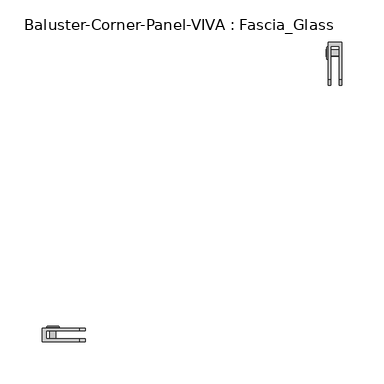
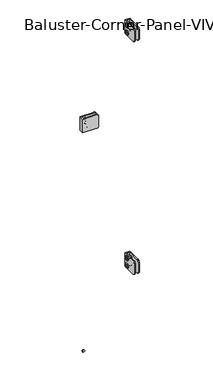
"""IFC4 building model written with IfcOpenShell, lengths in millimetres: railing geometry, Baluster-Corner-Panel-VIVA : Fascia_Glass."""

from ifc_helpers import new_model, si_unit, point, frame, origin, place, context, project, spatial, polyline, circle_curve, ellipse_curve, trimmed, outline, extrude, source, transform, mapped, element, save
from ifc_brep_helpers import plane_surface, cylinder_surface, revolved_surface, advanced_brep


def baluster_corner_panel_viva_fascia_glass_309fbe8c(model_context):
    return source(origin(), model_context, "Body", "SolidModel", [
        extrude(outline(polyline([(305.5784645, 917.178125), (303.5315003, 913.6326791), (299.437572, 913.6326791), (297.3906079, 917.178125), (299.437572, 920.7235709), (303.5315003, 920.7235709), (305.5784645, 917.178125)])), frame((21.7024185, 0.0, 0.0), z_axis=(1.0, 0.0, 0.0), x_axis=(0.0, 1.0, 0.0)), (0.0, 0.0, 1.0), 1.4969696),
        advanced_brep(
        [(36.7665, 305.0299821, 917.178125), (36.7665, 297.9390903, 917.178125), (24.0665, 297.9390903, 917.178125), (24.0665, 305.0299821, 917.178125), (24.0665, 294.0767471, 917.178125), (24.0665, 308.8923253, 917.178125), (23.199388, 303.1406116, 917.178125), (23.199388, 299.8284608, 917.178125), (36.7665, 299.8284608, 917.178125), (36.7665, 303.1406116, 917.178125), (23.2316551, 308.8923253, 917.178125), (23.2316551, 294.0767471, 917.178125), (21.9503831, 295.3580191, 917.178125), (21.9503831, 307.6110532, 917.178125), (21.9503831, 297.1859406, 917.178125), (21.9503831, 305.7831317, 917.178125), (23.199388, 297.1859406, 917.178125), (23.199388, 305.7831317, 917.178125)],
        [
            (0, 1, circle_curve(frame((36.7665, 301.4845362, 917.178125), z_axis=(-1.0, 0.0, 0.0), x_axis=(0.0, -1.0, 0.0)), 3.5454459)),
            (1, 2),
            (2, 3, circle_curve(frame((24.0665, 301.4845362, 917.178125), z_axis=(1.0, 0.0, 0.0), x_axis=(0.0, -1.0, 0.0)), 3.5454459)),
            (3, 0),
            (1, 0, circle_curve(frame((36.7665, 301.4845362, 917.178125), z_axis=(-1.0, 0.0, 0.0), x_axis=(0.0, -1.0, 0.0)), 3.5454459)),
            (3, 2, circle_curve(frame((24.0665, 301.4845362, 917.178125), z_axis=(1.0, 0.0, 0.0), x_axis=(0.0, -1.0, 0.0)), 3.5454459)),
            (2, 4),
            (4, 5, circle_curve(frame((24.0665, 301.4845362, 917.178125), z_axis=(1.0, 0.0, 0.0), x_axis=(0.0, -1.0, 0.0)), 7.4077891)),
            (5, 3),
            (5, 4, circle_curve(frame((24.0665, 301.4845362, 917.178125), z_axis=(1.0, 0.0, 0.0), x_axis=(0.0, -1.0, 0.0)), 7.4077891)),
            (6, 7, circle_curve(frame((23.199388, 301.4845362, 917.178125), z_axis=(-1.0, 0.0, 0.0), x_axis=(0.0, -1.0, 0.0)), 1.6560754)),
            (7, 8),
            (8, 9, circle_curve(frame((36.7665, 301.4845362, 917.178125), z_axis=(1.0, 0.0, 0.0), x_axis=(0.0, -1.0, 0.0)), 1.6560754)),
            (9, 6),
            (7, 6, circle_curve(frame((23.199388, 301.4845362, 917.178125), z_axis=(-1.0, 0.0, 0.0), x_axis=(0.0, -1.0, 0.0)), 1.6560754)),
            (9, 8, circle_curve(frame((36.7665, 301.4845362, 917.178125), z_axis=(1.0, 0.0, 0.0), x_axis=(0.0, -1.0, 0.0)), 1.6560754)),
            (10, 11, circle_curve(frame((23.2316551, 301.4845362, 917.178125), z_axis=(-1.0, 0.0, 0.0), x_axis=(0.0, -1.0, 0.0)), 7.4077891)),
            (11, 12, circle_curve(frame((23.2316551, 295.3580191, 917.178125), z_axis=(0.0, 0.0, -1.0), x_axis=(0.0, -1.0, 0.0)), 1.281272)),
            (12, 13, circle_curve(frame((21.9503831, 301.4845362, 917.178125), z_axis=(1.0, 0.0, 0.0), x_axis=(0.0, -1.0, 0.0)), 6.1265171)),
            (13, 10, circle_curve(frame((23.2316551, 307.6110532, 917.178125), z_axis=(0.0, 0.0, -1.0), x_axis=(0.0, 1.0, 0.0)), 1.281272)),
            (11, 10, circle_curve(frame((23.2316551, 301.4845362, 917.178125), z_axis=(-1.0, 0.0, 0.0), x_axis=(0.0, -1.0, 0.0)), 7.4077891)),
            (13, 12, circle_curve(frame((21.9503831, 301.4845362, 917.178125), z_axis=(1.0, 0.0, 0.0), x_axis=(0.0, -1.0, 0.0)), 6.1265171)),
            (12, 14),
            (14, 15, circle_curve(frame((21.9503831, 301.4845362, 917.178125), z_axis=(1.0, 0.0, 0.0), x_axis=(0.0, -1.0, 0.0)), 4.2985955)),
            (15, 13),
            (15, 14, circle_curve(frame((21.9503831, 301.4845362, 917.178125), z_axis=(1.0, 0.0, 0.0), x_axis=(0.0, -1.0, 0.0)), 4.2985955)),
            (4, 11),
            (10, 5),
            (8, 1),
            (0, 9),
            (14, 16),
            (16, 17, circle_curve(frame((23.199388, 301.4845362, 917.178125), z_axis=(1.0, 0.0, 0.0), x_axis=(0.0, -1.0, 0.0)), 4.2985955)),
            (17, 15),
            (17, 16, circle_curve(frame((23.199388, 301.4845362, 917.178125), z_axis=(1.0, 0.0, 0.0), x_axis=(0.0, -1.0, 0.0)), 4.2985955)),
            (16, 7),
            (6, 17),
        ],
        [
            cylinder_surface(frame((27.5632331, 301.4845362, 917.178125), z_axis=(1.0, 0.0, 0.0), x_axis=(0.0, -1.0, 0.0)), 3.5454459),
            plane_surface(frame((24.0665, 301.4845362, 917.178125), z_axis=(1.0, 0.0, 0.0), x_axis=(0.0, -1.0, 0.0))),
            revolved_surface(polyline([(36.7665, 299.82846079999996, 917.178125), (23.199388, 299.82846079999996, 917.178125)]), (27.5632331, 301.4845362, 917.178125), (1.0, 0.0, 0.0)),
            revolved_surface(trimmed(ellipse_curve(frame((23.2316551, 295.3580191, 917.178125), z_axis=(0.0, 0.0, 1.0), x_axis=(0.0, -1.0, 0.0)), 1.281272, 1.281272), [point((21.9503831, 295.3580191, 917.178125))], [point((23.2316551, 294.0767471, 917.178125))], True, "CARTESIAN"), (27.5632331, 301.4845362, 917.178125), (1.0, 0.0, 0.0)),
            plane_surface(frame((21.9503831, 301.4845362, 917.178125), z_axis=(-1.0, 0.0, 0.0), x_axis=(0.0, -1.0, 0.0))),
            cylinder_surface(frame((27.5632331, 301.4845362, 917.178125), z_axis=(1.0, 0.0, 0.0), x_axis=(0.0, -1.0, 0.0)), 7.4077891),
            plane_surface(frame((36.7665, 301.4845362, 917.178125), z_axis=(1.0, 0.0, 0.0), x_axis=(0.0, -1.0, 0.0))),
            revolved_surface(polyline([(23.199388, 297.1859407, 917.178125), (21.9503831, 297.1859407, 917.178125)]), (27.5632331, 301.4845362, 917.178125), (1.0, 0.0, 0.0)),
            plane_surface(frame((23.199388, 301.4845362, 917.178125), z_axis=(-1.0, 0.0, 0.0), x_axis=(0.0, -1.0, 0.0))),
        ],
        [
            (0, [[1, 2, 3, 4]]),
            (0, [[5, -4, 6, -2]]),
            (1, [[-3, 7, 8, 9]]),
            (1, [[-6, -9, 10, -7]]),
            (2, [[11, 12, 13, 14]]),
            (2, [[15, -14, 16, -12]]),
            (3, [[17, 18, 19, 20]]),
            (3, [[21, -20, 22, -18]]),
            (4, [[-19, 23, 24, 25]]),
            (4, [[-22, -25, 26, -23]]),
            (5, [[-8, 27, -17, 28]]),
            (5, [[-10, -28, -21, -27]]),
            (6, [[-13, 29, -1, 30]]),
            (6, [[-16, -30, -5, -29]]),
            (7, [[-24, 31, 32, 33]]),
            (7, [[-26, -33, 34, -31]]),
            (8, [[-32, 35, -11, 36]]),
            (8, [[-34, -36, -15, -35]]),
        ],
    ),
        advanced_brep(
        [(36.7665, 305.0299821, 892.571875), (36.7665, 297.9390903, 892.571875), (24.0665, 297.9390903, 892.571875), (24.0665, 305.0299821, 892.571875), (24.0665, 294.0767471, 892.571875), (24.0665, 308.8923253, 892.571875), (23.199388, 303.1406116, 892.571875), (23.199388, 299.8284608, 892.571875), (36.7665, 299.8284608, 892.571875), (36.7665, 303.1406116, 892.571875), (23.2316551, 308.8923253, 892.571875), (23.2316551, 294.0767471, 892.571875), (21.9503831, 295.3580191, 892.571875), (21.9503831, 307.6110532, 892.571875), (21.9503831, 297.1859406, 892.571875), (21.9503831, 305.7831317, 892.571875), (23.199388, 297.1859406, 892.571875), (23.199388, 305.7831317, 892.571875)],
        [
            (0, 1, circle_curve(frame((36.7665, 301.4845362, 892.571875), z_axis=(-1.0, 0.0, 0.0), x_axis=(0.0, -1.0, 0.0)), 3.5454459)),
            (1, 2),
            (2, 3, circle_curve(frame((24.0665, 301.4845362, 892.571875), z_axis=(1.0, 0.0, 0.0), x_axis=(0.0, -1.0, 0.0)), 3.5454459)),
            (3, 0),
            (1, 0, circle_curve(frame((36.7665, 301.4845362, 892.571875), z_axis=(-1.0, 0.0, 0.0), x_axis=(0.0, -1.0, 0.0)), 3.5454459)),
            (3, 2, circle_curve(frame((24.0665, 301.4845362, 892.571875), z_axis=(1.0, 0.0, 0.0), x_axis=(0.0, -1.0, 0.0)), 3.5454459)),
            (2, 4),
            (4, 5, circle_curve(frame((24.0665, 301.4845362, 892.571875), z_axis=(1.0, 0.0, 0.0), x_axis=(0.0, -1.0, 0.0)), 7.4077891)),
            (5, 3),
            (5, 4, circle_curve(frame((24.0665, 301.4845362, 892.571875), z_axis=(1.0, 0.0, 0.0), x_axis=(0.0, -1.0, 0.0)), 7.4077891)),
            (6, 7, circle_curve(frame((23.199388, 301.4845362, 892.571875), z_axis=(-1.0, 0.0, 0.0), x_axis=(0.0, -1.0, 0.0)), 1.6560754)),
            (7, 8),
            (8, 9, circle_curve(frame((36.7665, 301.4845362, 892.571875), z_axis=(1.0, 0.0, 0.0), x_axis=(0.0, -1.0, 0.0)), 1.6560754)),
            (9, 6),
            (7, 6, circle_curve(frame((23.199388, 301.4845362, 892.571875), z_axis=(-1.0, 0.0, 0.0), x_axis=(0.0, -1.0, 0.0)), 1.6560754)),
            (9, 8, circle_curve(frame((36.7665, 301.4845362, 892.571875), z_axis=(1.0, 0.0, 0.0), x_axis=(0.0, -1.0, 0.0)), 1.6560754)),
            (10, 11, circle_curve(frame((23.2316551, 301.4845362, 892.571875), z_axis=(-1.0, 0.0, 0.0), x_axis=(0.0, -1.0, 0.0)), 7.4077891)),
            (11, 12, circle_curve(frame((23.2316551, 295.3580191, 892.571875), z_axis=(0.0, 0.0, -1.0), x_axis=(0.0, -1.0, 0.0)), 1.281272)),
            (12, 13, circle_curve(frame((21.9503831, 301.4845362, 892.571875), z_axis=(1.0, 0.0, 0.0), x_axis=(0.0, -1.0, 0.0)), 6.1265171)),
            (13, 10, circle_curve(frame((23.2316551, 307.6110532, 892.571875), z_axis=(0.0, 0.0, -1.0), x_axis=(0.0, 1.0, 0.0)), 1.281272)),
            (11, 10, circle_curve(frame((23.2316551, 301.4845362, 892.571875), z_axis=(-1.0, 0.0, 0.0), x_axis=(0.0, -1.0, 0.0)), 7.4077891)),
            (13, 12, circle_curve(frame((21.9503831, 301.4845362, 892.571875), z_axis=(1.0, 0.0, 0.0), x_axis=(0.0, -1.0, 0.0)), 6.1265171)),
            (12, 14),
            (14, 15, circle_curve(frame((21.9503831, 301.4845362, 892.571875), z_axis=(1.0, 0.0, 0.0), x_axis=(0.0, -1.0, 0.0)), 4.2985955)),
            (15, 13),
            (15, 14, circle_curve(frame((21.9503831, 301.4845362, 892.571875), z_axis=(1.0, 0.0, 0.0), x_axis=(0.0, -1.0, 0.0)), 4.2985955)),
            (8, 1),
            (0, 9),
            (4, 11),
            (10, 5),
            (14, 16),
            (16, 17, circle_curve(frame((23.199388, 301.4845362, 892.571875), z_axis=(1.0, 0.0, 0.0), x_axis=(0.0, -1.0, 0.0)), 4.2985955)),
            (17, 15),
            (17, 16, circle_curve(frame((23.199388, 301.4845362, 892.571875), z_axis=(1.0, 0.0, 0.0), x_axis=(0.0, -1.0, 0.0)), 4.2985955)),
            (16, 7),
            (6, 17),
        ],
        [
            cylinder_surface(frame((27.5632331, 301.4845362, 892.571875), z_axis=(1.0, 0.0, 0.0), x_axis=(0.0, -1.0, 0.0)), 3.5454459),
            plane_surface(frame((24.0665, 301.4845362, 892.571875), z_axis=(1.0, 0.0, 0.0), x_axis=(0.0, -1.0, 0.0))),
            revolved_surface(polyline([(36.7665, 299.82846079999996, 892.571875), (23.199388, 299.82846079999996, 892.571875)]), (27.5632331, 301.4845362, 892.571875), (1.0, 0.0, 0.0)),
            revolved_surface(trimmed(ellipse_curve(frame((23.2316551, 295.3580191, 892.571875), z_axis=(0.0, 0.0, 1.0), x_axis=(0.0, -1.0, 0.0)), 1.281272, 1.281272), [point((21.9503831, 295.3580191, 892.571875))], [point((23.2316551, 294.0767471, 892.571875))], True, "CARTESIAN"), (27.5632331, 301.4845362, 892.571875), (1.0, 0.0, 0.0)),
            plane_surface(frame((21.9503831, 301.4845362, 892.571875), z_axis=(-1.0, 0.0, 0.0), x_axis=(0.0, -1.0, 0.0))),
            plane_surface(frame((36.7665, 301.4845362, 892.571875), z_axis=(1.0, 0.0, 0.0), x_axis=(0.0, -1.0, 0.0))),
            cylinder_surface(frame((27.5632331, 301.4845362, 892.571875), z_axis=(1.0, 0.0, 0.0), x_axis=(0.0, -1.0, 0.0)), 7.4077891),
            revolved_surface(polyline([(23.199388, 297.1859407, 892.571875), (21.9503831, 297.1859407, 892.571875)]), (27.5632331, 301.4845362, 892.571875), (1.0, 0.0, 0.0)),
            plane_surface(frame((23.199388, 301.4845362, 892.571875), z_axis=(-1.0, 0.0, 0.0), x_axis=(0.0, -1.0, 0.0))),
        ],
        [
            (0, [[1, 2, 3, 4]]),
            (0, [[5, -4, 6, -2]]),
            (1, [[-3, 7, 8, 9]]),
            (1, [[-6, -9, 10, -7]]),
            (2, [[11, 12, 13, 14]]),
            (2, [[15, -14, 16, -12]]),
            (3, [[17, 18, 19, 20]]),
            (3, [[21, -20, 22, -18]]),
            (4, [[-19, 23, 24, 25]]),
            (4, [[-22, -25, 26, -23]]),
            (5, [[-13, 27, -1, 28]]),
            (5, [[-16, -28, -5, -27]]),
            (6, [[-8, 29, -17, 30]]),
            (6, [[-10, -30, -21, -29]]),
            (7, [[-24, 31, 32, 33]]),
            (7, [[-26, -33, 34, -31]]),
            (8, [[-32, 35, -11, 36]]),
            (8, [[-34, -36, -15, -35]]),
        ],
    ),
        extrude(outline(polyline([(305.5784645, 892.571875), (303.5315003, 889.0264291), (299.437572, 889.0264291), (297.3906079, 892.571875), (299.437572, 896.1173209), (303.5315003, 896.1173209), (305.5784645, 892.571875)])), frame((21.7024185, 0.0, 0.0), z_axis=(1.0, 0.0, 0.0), x_axis=(0.0, 1.0, 0.0)), (0.0, 0.0, 1.0), 1.4969696),
        advanced_brep(
        [(24.0665, 314.1178809, 927.1), (24.0665, 314.1178809, 882.65), (24.0665, 269.6678809, 882.65), (24.0665, 263.3178809, 889.0), (24.0665, 263.3178809, 920.75), (24.0665, 269.6678809, 927.1), (39.9415, 314.1178809, 927.1), (39.9415, 269.6678809, 927.1), (39.9415, 263.3178809, 920.75), (39.9415, 263.3178809, 889.0), (39.9415, 269.6678809, 882.65), (39.9415, 314.1178809, 882.65), (36.7665, 269.6678809, 882.65), (36.7665, 309.3998005, 882.65), (27.2415, 309.3998005, 882.65), (27.2415, 269.6678809, 882.65), (36.7665, 309.3998005, 927.1), (27.2415, 309.3998005, 927.1), (27.2415, 269.6678809, 927.1), (27.2415, 263.3178809, 920.75), (27.2415, 263.3178809, 889.0), (36.7665, 263.3178809, 889.0), (36.7665, 263.3178809, 920.75), (36.7665, 269.6678809, 927.1)],
        [
            (0, 1),
            (1, 2),
            (2, 3, circle_curve(frame((24.0665, 269.6678809, 889.0), z_axis=(-1.0, 0.0, 0.0), x_axis=(0.0, -1.0, 0.0)), 6.35)),
            (3, 4),
            (4, 5, circle_curve(frame((24.0665, 269.6678809, 920.75), z_axis=(-1.0, 0.0, 0.0), x_axis=(0.0, -1.0, 0.0)), 6.35)),
            (5, 0),
            (6, 7),
            (7, 8, circle_curve(frame((39.9415, 269.6678809, 920.75), z_axis=(1.0, 0.0, 0.0), x_axis=(0.0, -1.0, 0.0)), 6.35)),
            (8, 9),
            (9, 10, circle_curve(frame((39.9415, 269.6678809, 889.0), z_axis=(1.0, 0.0, 0.0), x_axis=(0.0, -1.0, 0.0)), 6.35)),
            (10, 11),
            (11, 6),
            (0, 6),
            (11, 1),
            (10, 12),
            (12, 13),
            (13, 14),
            (14, 15),
            (15, 2),
            (13, 16),
            (16, 17),
            (17, 14),
            (17, 18),
            (18, 19, circle_curve(frame((27.2415, 269.6678809, 920.75), z_axis=(1.0, 0.0, 0.0), x_axis=(0.0, -1.0, 0.0)), 6.35)),
            (19, 20),
            (20, 15, circle_curve(frame((27.2415, 269.6678809, 889.0), z_axis=(1.0, 0.0, 0.0), x_axis=(0.0, -1.0, 0.0)), 6.35)),
            (12, 21, circle_curve(frame((36.7665, 269.6678809, 889.0), z_axis=(-1.0, 0.0, 0.0), x_axis=(0.0, -1.0, 0.0)), 6.35)),
            (21, 22),
            (22, 23, circle_curve(frame((36.7665, 269.6678809, 920.75), z_axis=(-1.0, 0.0, 0.0), x_axis=(0.0, -1.0, 0.0)), 6.35)),
            (23, 16),
            (20, 3),
            (9, 21),
            (19, 4),
            (8, 22),
            (18, 5),
            (7, 23),
        ],
        [
            plane_surface(frame((24.0665, 314.1178809, 882.65), z_axis=(-1.0, 0.0, 0.0), x_axis=(0.0, 0.0, -1.0))),
            plane_surface(frame((39.9415, 314.1178809, 882.65), z_axis=(1.0, 0.0, 0.0), x_axis=(0.0, 0.0, 1.0))),
            plane_surface(frame((24.0665, 314.1178809, 927.1), z_axis=(0.0, 1.0, 0.0), x_axis=(1.0, 0.0, 0.0))),
            plane_surface(frame((24.0665, 314.1178809, 882.65), z_axis=(0.0, 0.0, -1.0), x_axis=(1.0, 0.0, 0.0))),
            plane_surface(frame((36.7665, 309.3998005, 939.8), z_axis=(0.0, -1.0, 0.0), x_axis=(0.0, 0.0, -1.0))),
            plane_surface(frame((27.2415, 309.3998005, 939.8), z_axis=(1.0, 0.0, 0.0), x_axis=(0.0, 0.0, -1.0))),
            plane_surface(frame((36.7665, 250.6178809, 939.8), z_axis=(-1.0, 0.0, 0.0), x_axis=(0.0, 0.0, -1.0))),
            cylinder_surface(frame((39.9415, 269.6678809, 889.0), z_axis=(-1.0, 0.0, 0.0), x_axis=(0.0, -1.0, 0.0)), 6.35),
            plane_surface(frame((24.0665, 263.3178809, 889.0), z_axis=(0.0, -1.0, 0.0), x_axis=(1.0, 0.0, 0.0))),
            cylinder_surface(frame((39.9415, 269.6678809, 920.75), z_axis=(-1.0, 0.0, 0.0), x_axis=(0.0, -1.0, 0.0)), 6.35),
            plane_surface(frame((24.0665, 269.6678809, 927.1), z_axis=(0.0, 0.0, 1.0), x_axis=(1.0, 0.0, 0.0))),
        ],
        [
            (0, [[1, 2, 3, 4, 5, 6]]),
            (1, [[7, 8, 9, 10, 11, 12]]),
            (2, [[-1, 13, -12, 14]]),
            (3, [[-2, -14, -11, 15, 16, 17, 18, 19]]),
            (4, [[20, 21, 22, -17]]),
            (5, [[-22, 23, 24, 25, 26, -18]]),
            (6, [[-20, -16, 27, 28, 29, 30]]),
            (7, [[-3, -19, -26, 31]]),
            (7, [[-10, 32, -27, -15]]),
            (8, [[-4, -31, -25, 33]]),
            (8, [[-9, 34, -28, -32]]),
            (9, [[-5, -33, -24, 35]]),
            (9, [[-8, 36, -29, -34]]),
            (10, [[-6, -35, -23, -21, -30, -36, -7, -13]]),
        ],
    ),
        extrude(outline(polyline([(305.5784645, 138.7358896), (303.5315003, 135.1904437), (299.437572, 135.1904437), (297.3906079, 138.7358896), (299.437572, 142.2813355), (303.5315003, 142.2813355), (305.5784645, 138.7358896)])), frame((21.7024185, 0.0, 0.0), z_axis=(1.0, 0.0, 0.0), x_axis=(0.0, 1.0, 0.0)), (0.0, 0.0, 1.0), 1.4969696),
        advanced_brep(
        [(36.7665, 305.0299821, 138.7358896), (36.7665, 297.9390903, 138.7358896), (24.0665, 297.9390903, 138.7358896), (24.0665, 305.0299821, 138.7358896), (24.0665, 294.0767471, 138.7358896), (24.0665, 308.8923253, 138.7358896), (23.199388, 303.1406116, 138.7358896), (23.199388, 299.8284608, 138.7358896), (36.7665, 299.8284608, 138.7358896), (36.7665, 303.1406116, 138.7358896), (23.2316551, 308.8923253, 138.7358896), (23.2316551, 294.0767471, 138.7358896), (21.9503831, 295.3580191, 138.7358896), (21.9503831, 307.6110532, 138.7358896), (21.9503831, 297.1859406, 138.7358896), (21.9503831, 305.7831317, 138.7358896), (23.199388, 297.1859406, 138.7358896), (23.199388, 305.7831317, 138.7358896)],
        [
            (0, 1, circle_curve(frame((36.7665, 301.4845362, 138.7358896), z_axis=(-1.0, 0.0, 0.0), x_axis=(0.0, -1.0, 0.0)), 3.5454459)),
            (1, 2),
            (2, 3, circle_curve(frame((24.0665, 301.4845362, 138.7358896), z_axis=(1.0, 0.0, 0.0), x_axis=(0.0, -1.0, 0.0)), 3.5454459)),
            (3, 0),
            (1, 0, circle_curve(frame((36.7665, 301.4845362, 138.7358896), z_axis=(-1.0, 0.0, 0.0), x_axis=(0.0, -1.0, 0.0)), 3.5454459)),
            (3, 2, circle_curve(frame((24.0665, 301.4845362, 138.7358896), z_axis=(1.0, 0.0, 0.0), x_axis=(0.0, -1.0, 0.0)), 3.5454459)),
            (2, 4),
            (4, 5, circle_curve(frame((24.0665, 301.4845362, 138.7358896), z_axis=(1.0, 0.0, 0.0), x_axis=(0.0, -1.0, 0.0)), 7.4077891)),
            (5, 3),
            (5, 4, circle_curve(frame((24.0665, 301.4845362, 138.7358896), z_axis=(1.0, 0.0, 0.0), x_axis=(0.0, -1.0, 0.0)), 7.4077891)),
            (6, 7, circle_curve(frame((23.199388, 301.4845362, 138.7358896), z_axis=(-1.0, 0.0, 0.0), x_axis=(0.0, -1.0, 0.0)), 1.6560754)),
            (7, 8),
            (8, 9, circle_curve(frame((36.7665, 301.4845362, 138.7358896), z_axis=(1.0, 0.0, 0.0), x_axis=(0.0, -1.0, 0.0)), 1.6560754)),
            (9, 6),
            (7, 6, circle_curve(frame((23.199388, 301.4845362, 138.7358896), z_axis=(-1.0, 0.0, 0.0), x_axis=(0.0, -1.0, 0.0)), 1.6560754)),
            (9, 8, circle_curve(frame((36.7665, 301.4845362, 138.7358896), z_axis=(1.0, 0.0, 0.0), x_axis=(0.0, -1.0, 0.0)), 1.6560754)),
            (10, 11, circle_curve(frame((23.2316551, 301.4845362, 138.7358896), z_axis=(-1.0, 0.0, 0.0), x_axis=(0.0, -1.0, 0.0)), 7.4077891)),
            (11, 12, circle_curve(frame((23.2316551, 295.3580191, 138.7358896), z_axis=(0.0, 0.0, -1.0), x_axis=(0.0, -1.0, 0.0)), 1.281272)),
            (12, 13, circle_curve(frame((21.9503831, 301.4845362, 138.7358896), z_axis=(1.0, 0.0, 0.0), x_axis=(0.0, -1.0, 0.0)), 6.1265171)),
            (13, 10, circle_curve(frame((23.2316551, 307.6110532, 138.7358896), z_axis=(0.0, 0.0, -1.0), x_axis=(0.0, 1.0, 0.0)), 1.281272)),
            (11, 10, circle_curve(frame((23.2316551, 301.4845362, 138.7358896), z_axis=(-1.0, 0.0, 0.0), x_axis=(0.0, -1.0, 0.0)), 7.4077891)),
            (13, 12, circle_curve(frame((21.9503831, 301.4845362, 138.7358896), z_axis=(1.0, 0.0, 0.0), x_axis=(0.0, -1.0, 0.0)), 6.1265171)),
            (12, 14),
            (14, 15, circle_curve(frame((21.9503831, 301.4845362, 138.7358896), z_axis=(1.0, 0.0, 0.0), x_axis=(0.0, -1.0, 0.0)), 4.2985955)),
            (15, 13),
            (15, 14, circle_curve(frame((21.9503831, 301.4845362, 138.7358896), z_axis=(1.0, 0.0, 0.0), x_axis=(0.0, -1.0, 0.0)), 4.2985955)),
            (4, 11),
            (10, 5),
            (8, 1),
            (0, 9),
            (14, 16),
            (16, 17, circle_curve(frame((23.199388, 301.4845362, 138.7358896), z_axis=(1.0, 0.0, 0.0), x_axis=(0.0, -1.0, 0.0)), 4.2985955)),
            (17, 15),
            (17, 16, circle_curve(frame((23.199388, 301.4845362, 138.7358896), z_axis=(1.0, 0.0, 0.0), x_axis=(0.0, -1.0, 0.0)), 4.2985955)),
            (16, 7),
            (6, 17),
        ],
        [
            cylinder_surface(frame((27.5632331, 301.4845362, 138.7358896), z_axis=(1.0, 0.0, 0.0), x_axis=(0.0, -1.0, 0.0)), 3.5454459),
            plane_surface(frame((24.0665, 301.4845362, 138.7358896), z_axis=(1.0, 0.0, 0.0), x_axis=(0.0, -1.0, 0.0))),
            revolved_surface(polyline([(36.7665, 299.82846079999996, 138.7358896), (23.199388, 299.82846079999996, 138.7358896)]), (27.5632331, 301.4845362, 138.7358896), (1.0, 0.0, 0.0)),
            revolved_surface(trimmed(ellipse_curve(frame((23.2316551, 295.3580191, 138.7358896), z_axis=(0.0, 0.0, 1.0), x_axis=(0.0, -1.0, 0.0)), 1.281272, 1.281272), [point((21.9503831, 295.3580191, 138.7358896))], [point((23.2316551, 294.0767471, 138.7358896))], True, "CARTESIAN"), (27.5632331, 301.4845362, 138.7358896), (1.0, 0.0, 0.0)),
            plane_surface(frame((21.9503831, 301.4845362, 138.7358896), z_axis=(-1.0, 0.0, 0.0), x_axis=(0.0, -1.0, 0.0))),
            cylinder_surface(frame((27.5632331, 301.4845362, 138.7358896), z_axis=(1.0, 0.0, 0.0), x_axis=(0.0, -1.0, 0.0)), 7.4077891),
            plane_surface(frame((36.7665, 301.4845362, 138.7358896), z_axis=(1.0, 0.0, 0.0), x_axis=(0.0, -1.0, 0.0))),
            revolved_surface(polyline([(23.199388, 297.1859407, 138.7358896), (21.9503831, 297.1859407, 138.7358896)]), (27.5632331, 301.4845362, 138.7358896), (1.0, 0.0, 0.0)),
            plane_surface(frame((23.199388, 301.4845362, 138.7358896), z_axis=(-1.0, 0.0, 0.0), x_axis=(0.0, -1.0, 0.0))),
        ],
        [
            (0, [[1, 2, 3, 4]]),
            (0, [[5, -4, 6, -2]]),
            (1, [[-3, 7, 8, 9]]),
            (1, [[-6, -9, 10, -7]]),
            (2, [[11, 12, 13, 14]]),
            (2, [[15, -14, 16, -12]]),
            (3, [[17, 18, 19, 20]]),
            (3, [[21, -20, 22, -18]]),
            (4, [[-19, 23, 24, 25]]),
            (4, [[-22, -25, 26, -23]]),
            (5, [[-8, 27, -17, 28]]),
            (5, [[-10, -28, -21, -27]]),
            (6, [[-13, 29, -1, 30]]),
            (6, [[-16, -30, -5, -29]]),
            (7, [[-24, 31, 32, 33]]),
            (7, [[-26, -33, 34, -31]]),
            (8, [[-32, 35, -11, 36]]),
            (8, [[-34, -36, -15, -35]]),
        ],
    ),
        advanced_brep(
        [(36.7665, 305.0299821, 114.1296396), (36.7665, 297.9390903, 114.1296396), (24.0665, 297.9390903, 114.1296396), (24.0665, 305.0299821, 114.1296396), (24.0665, 294.0767471, 114.1296396), (24.0665, 308.8923253, 114.1296396), (23.199388, 303.1406116, 114.1296396), (23.199388, 299.8284608, 114.1296396), (36.7665, 299.8284608, 114.1296396), (36.7665, 303.1406116, 114.1296396), (23.2316551, 308.8923253, 114.1296396), (23.2316551, 294.0767471, 114.1296396), (21.9503831, 295.3580191, 114.1296396), (21.9503831, 307.6110532, 114.1296396), (21.9503831, 297.1859406, 114.1296396), (21.9503831, 305.7831317, 114.1296396), (23.199388, 297.1859406, 114.1296396), (23.199388, 305.7831317, 114.1296396)],
        [
            (0, 1, circle_curve(frame((36.7665, 301.4845362, 114.1296396), z_axis=(-1.0, 0.0, 0.0), x_axis=(0.0, -1.0, 0.0)), 3.5454459)),
            (1, 2),
            (2, 3, circle_curve(frame((24.0665, 301.4845362, 114.1296396), z_axis=(1.0, 0.0, 0.0), x_axis=(0.0, -1.0, 0.0)), 3.5454459)),
            (3, 0),
            (1, 0, circle_curve(frame((36.7665, 301.4845362, 114.1296396), z_axis=(-1.0, 0.0, 0.0), x_axis=(0.0, -1.0, 0.0)), 3.5454459)),
            (3, 2, circle_curve(frame((24.0665, 301.4845362, 114.1296396), z_axis=(1.0, 0.0, 0.0), x_axis=(0.0, -1.0, 0.0)), 3.5454459)),
            (2, 4),
            (4, 5, circle_curve(frame((24.0665, 301.4845362, 114.1296396), z_axis=(1.0, 0.0, 0.0), x_axis=(0.0, -1.0, 0.0)), 7.4077891)),
            (5, 3),
            (5, 4, circle_curve(frame((24.0665, 301.4845362, 114.1296396), z_axis=(1.0, 0.0, 0.0), x_axis=(0.0, -1.0, 0.0)), 7.4077891)),
            (6, 7, circle_curve(frame((23.199388, 301.4845362, 114.1296396), z_axis=(-1.0, 0.0, 0.0), x_axis=(0.0, -1.0, 0.0)), 1.6560754)),
            (7, 8),
            (8, 9, circle_curve(frame((36.7665, 301.4845362, 114.1296396), z_axis=(1.0, 0.0, 0.0), x_axis=(0.0, -1.0, 0.0)), 1.6560754)),
            (9, 6),
            (7, 6, circle_curve(frame((23.199388, 301.4845362, 114.1296396), z_axis=(-1.0, 0.0, 0.0), x_axis=(0.0, -1.0, 0.0)), 1.6560754)),
            (9, 8, circle_curve(frame((36.7665, 301.4845362, 114.1296396), z_axis=(1.0, 0.0, 0.0), x_axis=(0.0, -1.0, 0.0)), 1.6560754)),
            (10, 11, circle_curve(frame((23.2316551, 301.4845362, 114.1296396), z_axis=(-1.0, 0.0, 0.0), x_axis=(0.0, -1.0, 0.0)), 7.4077891)),
            (11, 12, circle_curve(frame((23.2316551, 295.3580191, 114.1296396), z_axis=(0.0, 0.0, -1.0), x_axis=(0.0, -1.0, 0.0)), 1.281272)),
            (12, 13, circle_curve(frame((21.9503831, 301.4845362, 114.1296396), z_axis=(1.0, 0.0, 0.0), x_axis=(0.0, -1.0, 0.0)), 6.1265171)),
            (13, 10, circle_curve(frame((23.2316551, 307.6110532, 114.1296396), z_axis=(0.0, 0.0, -1.0), x_axis=(0.0, 1.0, 0.0)), 1.281272)),
            (11, 10, circle_curve(frame((23.2316551, 301.4845362, 114.1296396), z_axis=(-1.0, 0.0, 0.0), x_axis=(0.0, -1.0, 0.0)), 7.4077891)),
            (13, 12, circle_curve(frame((21.9503831, 301.4845362, 114.1296396), z_axis=(1.0, 0.0, 0.0), x_axis=(0.0, -1.0, 0.0)), 6.1265171)),
            (12, 14),
            (14, 15, circle_curve(frame((21.9503831, 301.4845362, 114.1296396), z_axis=(1.0, 0.0, 0.0), x_axis=(0.0, -1.0, 0.0)), 4.2985955)),
            (15, 13),
            (15, 14, circle_curve(frame((21.9503831, 301.4845362, 114.1296396), z_axis=(1.0, 0.0, 0.0), x_axis=(0.0, -1.0, 0.0)), 4.2985955)),
            (8, 1),
            (0, 9),
            (4, 11),
            (10, 5),
            (14, 16),
            (16, 17, circle_curve(frame((23.199388, 301.4845362, 114.1296396), z_axis=(1.0, 0.0, 0.0), x_axis=(0.0, -1.0, 0.0)), 4.2985955)),
            (17, 15),
            (17, 16, circle_curve(frame((23.199388, 301.4845362, 114.1296396), z_axis=(1.0, 0.0, 0.0), x_axis=(0.0, -1.0, 0.0)), 4.2985955)),
            (16, 7),
            (6, 17),
        ],
        [
            cylinder_surface(frame((27.5632331, 301.4845362, 114.1296396), z_axis=(1.0, 0.0, 0.0), x_axis=(0.0, -1.0, 0.0)), 3.5454459),
            plane_surface(frame((24.0665, 301.4845362, 114.1296396), z_axis=(1.0, 0.0, 0.0), x_axis=(0.0, -1.0, 0.0))),
            revolved_surface(polyline([(36.7665, 299.82846079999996, 114.1296396), (23.199388, 299.82846079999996, 114.1296396)]), (27.5632331, 301.4845362, 114.1296396), (1.0, 0.0, 0.0)),
            revolved_surface(trimmed(ellipse_curve(frame((23.2316551, 295.3580191, 114.1296396), z_axis=(0.0, 0.0, 1.0), x_axis=(0.0, -1.0, 0.0)), 1.281272, 1.281272), [point((21.9503831, 295.3580191, 114.1296396))], [point((23.2316551, 294.0767471, 114.1296396))], True, "CARTESIAN"), (27.5632331, 301.4845362, 114.1296396), (1.0, 0.0, 0.0)),
            plane_surface(frame((21.9503831, 301.4845362, 114.1296396), z_axis=(-1.0, 0.0, 0.0), x_axis=(0.0, -1.0, 0.0))),
            plane_surface(frame((36.7665, 301.4845362, 114.1296396), z_axis=(1.0, 0.0, 0.0), x_axis=(0.0, -1.0, 0.0))),
            cylinder_surface(frame((27.5632331, 301.4845362, 114.1296396), z_axis=(1.0, 0.0, 0.0), x_axis=(0.0, -1.0, 0.0)), 7.4077891),
            revolved_surface(polyline([(23.199388, 297.1859407, 114.1296396), (21.9503831, 297.1859407, 114.1296396)]), (27.5632331, 301.4845362, 114.1296396), (1.0, 0.0, 0.0)),
            plane_surface(frame((23.199388, 301.4845362, 114.1296396), z_axis=(-1.0, 0.0, 0.0), x_axis=(0.0, -1.0, 0.0))),
        ],
        [
            (0, [[1, 2, 3, 4]]),
            (0, [[5, -4, 6, -2]]),
            (1, [[-3, 7, 8, 9]]),
            (1, [[-6, -9, 10, -7]]),
            (2, [[11, 12, 13, 14]]),
            (2, [[15, -14, 16, -12]]),
            (3, [[17, 18, 19, 20]]),
            (3, [[21, -20, 22, -18]]),
            (4, [[-19, 23, 24, 25]]),
            (4, [[-22, -25, 26, -23]]),
            (5, [[-13, 27, -1, 28]]),
            (5, [[-16, -28, -5, -27]]),
            (6, [[-8, 29, -17, 30]]),
            (6, [[-10, -30, -21, -29]]),
            (7, [[-24, 31, 32, 33]]),
            (7, [[-26, -33, 34, -31]]),
            (8, [[-32, 35, -11, 36]]),
            (8, [[-34, -36, -15, -35]]),
        ],
    ),
        extrude(outline(polyline([(305.5784645, 114.1296396), (303.5315003, 110.5841937), (299.437572, 110.5841937), (297.3906079, 114.1296396), (299.437572, 117.6750855), (303.5315003, 117.6750855), (305.5784645, 114.1296396)])), frame((21.7024185, 0.0, 0.0), z_axis=(1.0, 0.0, 0.0), x_axis=(0.0, 1.0, 0.0)), (0.0, 0.0, 1.0), 1.4969696),
        advanced_brep(
        [(24.0665, 314.1178809, 148.6577646), (24.0665, 314.1178809, 104.2077646), (24.0665, 269.6678809, 104.2077646), (24.0665, 263.3178809, 110.5577646), (24.0665, 263.3178809, 142.3077646), (24.0665, 269.6678809, 148.6577646), (39.9415, 314.1178809, 148.6577646), (39.9415, 269.6678809, 148.6577646), (39.9415, 263.3178809, 142.3077646), (39.9415, 263.3178809, 110.5577646), (39.9415, 269.6678809, 104.2077646), (39.9415, 314.1178809, 104.2077646), (36.7665, 269.6678809, 104.2077646), (36.7665, 309.3998005, 104.2077646), (27.2415, 309.3998005, 104.2077646), (27.2415, 269.6678809, 104.2077646), (36.7665, 309.3998005, 148.6577646), (27.2415, 309.3998005, 148.6577646), (27.2415, 269.6678809, 148.6577646), (27.2415, 263.3178809, 142.3077646), (27.2415, 263.3178809, 110.5577646), (36.7665, 263.3178809, 110.5577646), (36.7665, 263.3178809, 142.3077646), (36.7665, 269.6678809, 148.6577646)],
        [
            (0, 1),
            (1, 2),
            (2, 3, circle_curve(frame((24.0665, 269.6678809, 110.5577646), z_axis=(-1.0, 0.0, 0.0), x_axis=(0.0, -1.0, 0.0)), 6.35)),
            (3, 4),
            (4, 5, circle_curve(frame((24.0665, 269.6678809, 142.3077646), z_axis=(-1.0, 0.0, 0.0), x_axis=(0.0, -1.0, 0.0)), 6.35)),
            (5, 0),
            (6, 7),
            (7, 8, circle_curve(frame((39.9415, 269.6678809, 142.3077646), z_axis=(1.0, 0.0, 0.0), x_axis=(0.0, -1.0, 0.0)), 6.35)),
            (8, 9),
            (9, 10, circle_curve(frame((39.9415, 269.6678809, 110.5577646), z_axis=(1.0, 0.0, 0.0), x_axis=(0.0, -1.0, 0.0)), 6.35)),
            (10, 11),
            (11, 6),
            (0, 6),
            (11, 1),
            (10, 12),
            (12, 13),
            (13, 14),
            (14, 15),
            (15, 2),
            (13, 16),
            (16, 17),
            (17, 14),
            (17, 18),
            (18, 19, circle_curve(frame((27.2415, 269.6678809, 142.3077646), z_axis=(1.0, 0.0, 0.0), x_axis=(0.0, -1.0, 0.0)), 6.35)),
            (19, 20),
            (20, 15, circle_curve(frame((27.2415, 269.6678809, 110.5577646), z_axis=(1.0, 0.0, 0.0), x_axis=(0.0, -1.0, 0.0)), 6.35)),
            (12, 21, circle_curve(frame((36.7665, 269.6678809, 110.5577646), z_axis=(-1.0, 0.0, 0.0), x_axis=(0.0, -1.0, 0.0)), 6.35)),
            (21, 22),
            (22, 23, circle_curve(frame((36.7665, 269.6678809, 142.3077646), z_axis=(-1.0, 0.0, 0.0), x_axis=(0.0, -1.0, 0.0)), 6.35)),
            (23, 16),
            (20, 3),
            (9, 21),
            (19, 4),
            (8, 22),
            (18, 5),
            (7, 23),
        ],
        [
            plane_surface(frame((24.0665, 314.1178809, 104.2077646), z_axis=(-1.0, 0.0, 0.0), x_axis=(0.0, 0.0, -1.0))),
            plane_surface(frame((39.9415, 314.1178809, 104.2077646), z_axis=(1.0, 0.0, 0.0), x_axis=(0.0, 0.0, 1.0))),
            plane_surface(frame((24.0665, 314.1178809, 148.6577646), z_axis=(0.0, 1.0, 0.0), x_axis=(1.0, 0.0, 0.0))),
            plane_surface(frame((24.0665, 314.1178809, 104.2077646), z_axis=(0.0, 0.0, -1.0), x_axis=(1.0, 0.0, 0.0))),
            plane_surface(frame((36.7665, 309.3998005, 161.3577646), z_axis=(0.0, -1.0, 0.0), x_axis=(0.0, 0.0, -1.0))),
            plane_surface(frame((27.2415, 309.3998005, 161.3577646), z_axis=(1.0, 0.0, 0.0), x_axis=(0.0, 0.0, -1.0))),
            plane_surface(frame((36.7665, 250.6178809, 161.3577646), z_axis=(-1.0, 0.0, 0.0), x_axis=(0.0, 0.0, -1.0))),
            cylinder_surface(frame((39.9415, 269.6678809, 110.5577646), z_axis=(-1.0, 0.0, 0.0), x_axis=(0.0, -1.0, 0.0)), 6.35),
            plane_surface(frame((24.0665, 263.3178809, 110.5577646), z_axis=(0.0, -1.0, 0.0), x_axis=(1.0, 0.0, 0.0))),
            cylinder_surface(frame((39.9415, 269.6678809, 142.3077646), z_axis=(-1.0, 0.0, 0.0), x_axis=(0.0, -1.0, 0.0)), 6.35),
            plane_surface(frame((24.0665, 269.6678809, 148.6577646), z_axis=(0.0, 0.0, 1.0), x_axis=(1.0, 0.0, 0.0))),
        ],
        [
            (0, [[1, 2, 3, 4, 5, 6]]),
            (1, [[7, 8, 9, 10, 11, 12]]),
            (2, [[-1, 13, -12, 14]]),
            (3, [[-2, -14, -11, 15, 16, 17, 18, 19]]),
            (4, [[20, 21, 22, -17]]),
            (5, [[-22, 23, 24, 25, 26, -18]]),
            (6, [[-20, -16, 27, 28, 29, 30]]),
            (7, [[-3, -19, -26, 31]]),
            (7, [[-10, 32, -27, -15]]),
            (8, [[-4, -31, -25, 33]]),
            (8, [[-9, 34, -28, -32]]),
            (9, [[-5, -33, -24, 35]]),
            (9, [[-8, 36, -29, -34]]),
            (10, [[-6, -35, -23, -21, -30, -36, -7, -13]]),
        ],
    ),
        extrude(outline(polyline([(917.178125, -305.7839928), (913.6326791, -303.7370286), (913.6326791, -299.6431003), (917.178125, -297.5961362), (920.7235709, -299.6431003), (920.7235709, -303.7370286), (917.178125, -305.7839928)])), frame((0.0, -23.199388, 0.0), z_axis=(0.0, 1.0, 0.0), x_axis=(0.0, 0.0, 1.0)), (0.0, 0.0, 1.0), 1.4969696),
        advanced_brep(
        [(-305.2355104, -36.7665, 917.178125), (-305.2355104, -24.0665, 917.178125), (-298.1446186, -24.0665, 917.178125), (-298.1446186, -36.7665, 917.178125), (-309.0978536, -24.0665, 917.178125), (-294.2822754, -24.0665, 917.178125), (-303.3461399, -23.199388, 917.178125), (-303.3461399, -36.7665, 917.178125), (-300.0339891, -36.7665, 917.178125), (-300.0339891, -23.199388, 917.178125), (-309.0978536, -23.2316551, 917.178125), (-307.8165815, -21.9503831, 917.178125), (-295.5635474, -21.9503831, 917.178125), (-294.2822754, -23.2316551, 917.178125), (-305.98866, -21.9503831, 917.178125), (-297.3914689, -21.9503831, 917.178125), (-305.98866, -23.199388, 917.178125), (-297.3914689, -23.199388, 917.178125)],
        [
            (0, 1),
            (1, 2, circle_curve(frame((-301.6900645, -24.0665, 917.178125), z_axis=(0.0, -1.0, 0.0), x_axis=(1.0, 0.0, 0.0)), 3.5454459)),
            (2, 3),
            (3, 0, circle_curve(frame((-301.6900645, -36.7665, 917.178125), z_axis=(0.0, 1.0, 0.0), x_axis=(1.0, 0.0, 0.0)), 3.5454459)),
            (2, 1, circle_curve(frame((-301.6900645, -24.0665, 917.178125), z_axis=(0.0, -1.0, 0.0), x_axis=(1.0, 0.0, 0.0)), 3.5454459)),
            (0, 3, circle_curve(frame((-301.6900645, -36.7665, 917.178125), z_axis=(0.0, 1.0, 0.0), x_axis=(1.0, 0.0, 0.0)), 3.5454459)),
            (1, 4),
            (4, 5, circle_curve(frame((-301.6900645, -24.0665, 917.178125), z_axis=(0.0, -1.0, 0.0), x_axis=(1.0, 0.0, 0.0)), 7.4077891)),
            (5, 2),
            (5, 4, circle_curve(frame((-301.6900645, -24.0665, 917.178125), z_axis=(0.0, -1.0, 0.0), x_axis=(1.0, 0.0, 0.0)), 7.4077891)),
            (6, 7),
            (7, 8, circle_curve(frame((-301.6900645, -36.7665, 917.178125), z_axis=(0.0, -1.0, 0.0), x_axis=(1.0, 0.0, 0.0)), 1.6560754)),
            (8, 9),
            (9, 6, circle_curve(frame((-301.6900645, -23.199388, 917.178125), z_axis=(0.0, 1.0, 0.0), x_axis=(1.0, 0.0, 0.0)), 1.6560754)),
            (8, 7, circle_curve(frame((-301.6900645, -36.7665, 917.178125), z_axis=(0.0, -1.0, 0.0), x_axis=(1.0, 0.0, 0.0)), 1.6560754)),
            (6, 9, circle_curve(frame((-301.6900645, -23.199388, 917.178125), z_axis=(0.0, 1.0, 0.0), x_axis=(1.0, 0.0, 0.0)), 1.6560754)),
            (10, 11, circle_curve(frame((-307.8165815, -23.2316551, 917.178125), z_axis=(0.0, 0.0, -1.0), x_axis=(-1.0, 0.0, 0.0)), 1.281272)),
            (11, 12, circle_curve(frame((-301.6900645, -21.9503831, 917.178125), z_axis=(0.0, -1.0, 0.0), x_axis=(1.0, 0.0, 0.0)), 6.1265171)),
            (12, 13, circle_curve(frame((-295.5635474, -23.2316551, 917.178125), z_axis=(0.0, 0.0, -1.0), x_axis=(1.0, 0.0, 0.0)), 1.281272)),
            (13, 10, circle_curve(frame((-301.6900645, -23.2316551, 917.178125), z_axis=(0.0, 1.0, 0.0), x_axis=(1.0, 0.0, 0.0)), 7.4077891)),
            (12, 11, circle_curve(frame((-301.6900645, -21.9503831, 917.178125), z_axis=(0.0, -1.0, 0.0), x_axis=(1.0, 0.0, 0.0)), 6.1265171)),
            (10, 13, circle_curve(frame((-301.6900645, -23.2316551, 917.178125), z_axis=(0.0, 1.0, 0.0), x_axis=(1.0, 0.0, 0.0)), 7.4077891)),
            (11, 14),
            (14, 15, circle_curve(frame((-301.6900645, -21.9503831, 917.178125), z_axis=(0.0, -1.0, 0.0), x_axis=(1.0, 0.0, 0.0)), 4.2985955)),
            (15, 12),
            (15, 14, circle_curve(frame((-301.6900645, -21.9503831, 917.178125), z_axis=(0.0, -1.0, 0.0), x_axis=(1.0, 0.0, 0.0)), 4.2985955)),
            (4, 10),
            (13, 5),
            (7, 0),
            (3, 8),
            (14, 16),
            (16, 17, circle_curve(frame((-301.6900645, -23.199388, 917.178125), z_axis=(0.0, -1.0, 0.0), x_axis=(1.0, 0.0, 0.0)), 4.2985955)),
            (17, 15),
            (17, 16, circle_curve(frame((-301.6900645, -23.199388, 917.178125), z_axis=(0.0, -1.0, 0.0), x_axis=(1.0, 0.0, 0.0)), 4.2985955)),
            (16, 6),
            (9, 17),
        ],
        [
            cylinder_surface(frame((-301.6900645, -27.5632331, 917.178125), z_axis=(0.0, -1.0, 0.0), x_axis=(1.0, 0.0, 0.0)), 3.5454459),
            plane_surface(frame((-301.6900645, -24.0665, 917.178125), z_axis=(0.0, -1.0, 0.0), x_axis=(1.0, 0.0, 0.0))),
            revolved_surface(polyline([(-300.0339891, -36.7665, 917.178125), (-300.0339891, -23.199388, 917.178125)]), (-301.6900645, -27.5632331, 917.178125), (0.0, -1.0, 0.0)),
            revolved_surface(trimmed(ellipse_curve(frame((-295.5635474, -23.2316551, 917.178125), z_axis=(0.0, 0.0, -1.0), x_axis=(1.0, 0.0, 0.0)), 1.281272, 1.281272), [point((-295.5635474, -21.9503831, 917.178125))], [point((-294.2822754, -23.2316551, 917.178125))], True, "CARTESIAN"), (-301.6900645, -27.5632331, 917.178125), (0.0, -1.0, 0.0)),
            plane_surface(frame((-301.6900645, -21.9503831, 917.178125), z_axis=(0.0, 1.0, 0.0), x_axis=(1.0, 0.0, 0.0))),
            cylinder_surface(frame((-301.6900645, -27.5632331, 917.178125), z_axis=(0.0, -1.0, 0.0), x_axis=(1.0, 0.0, 0.0)), 7.4077891),
            plane_surface(frame((-301.6900645, -36.7665, 917.178125), z_axis=(0.0, -1.0, 0.0), x_axis=(1.0, 0.0, 0.0))),
            revolved_surface(polyline([(-297.39146900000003, -23.199388, 917.178125), (-297.39146900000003, -21.9503831, 917.178125)]), (-301.6900645, -27.5632331, 917.178125), (0.0, -1.0, 0.0)),
            plane_surface(frame((-301.6900645, -23.199388, 917.178125), z_axis=(0.0, 1.0, 0.0), x_axis=(1.0, 0.0, 0.0))),
        ],
        [
            (0, [[1, 2, 3, 4]]),
            (0, [[-3, 5, -1, 6]]),
            (1, [[7, 8, 9, -2]]),
            (1, [[-9, 10, -7, -5]]),
            (2, [[11, 12, 13, 14]]),
            (2, [[-13, 15, -11, 16]]),
            (3, [[17, 18, 19, 20]]),
            (3, [[-19, 21, -17, 22]]),
            (4, [[23, 24, 25, -18]]),
            (4, [[-25, 26, -23, -21]]),
            (5, [[27, -20, 28, -8]]),
            (5, [[-28, -22, -27, -10]]),
            (6, [[29, -4, 30, -12]]),
            (6, [[-30, -6, -29, -15]]),
            (7, [[31, 32, 33, -24]]),
            (7, [[-33, 34, -31, -26]]),
            (8, [[35, -14, 36, -32]]),
            (8, [[-36, -16, -35, -34]]),
        ],
    ),
        advanced_brep(
        [(-305.2355104, -36.7665, 892.571875), (-305.2355104, -24.0665, 892.571875), (-298.1446186, -24.0665, 892.571875), (-298.1446186, -36.7665, 892.571875), (-309.0978536, -24.0665, 892.571875), (-294.2822754, -24.0665, 892.571875), (-303.3461399, -23.199388, 892.571875), (-303.3461399, -36.7665, 892.571875), (-300.0339891, -36.7665, 892.571875), (-300.0339891, -23.199388, 892.571875), (-309.0978536, -23.2316551, 892.571875), (-307.8165815, -21.9503831, 892.571875), (-295.5635474, -21.9503831, 892.571875), (-294.2822754, -23.2316551, 892.571875), (-305.98866, -21.9503831, 892.571875), (-297.3914689, -21.9503831, 892.571875), (-305.98866, -23.199388, 892.571875), (-297.3914689, -23.199388, 892.571875)],
        [
            (0, 1),
            (1, 2, circle_curve(frame((-301.6900645, -24.0665, 892.571875), z_axis=(0.0, -1.0, 0.0), x_axis=(1.0, 0.0, 0.0)), 3.5454459)),
            (2, 3),
            (3, 0, circle_curve(frame((-301.6900645, -36.7665, 892.571875), z_axis=(0.0, 1.0, 0.0), x_axis=(1.0, 0.0, 0.0)), 3.5454459)),
            (2, 1, circle_curve(frame((-301.6900645, -24.0665, 892.571875), z_axis=(0.0, -1.0, 0.0), x_axis=(1.0, 0.0, 0.0)), 3.5454459)),
            (0, 3, circle_curve(frame((-301.6900645, -36.7665, 892.571875), z_axis=(0.0, 1.0, 0.0), x_axis=(1.0, 0.0, 0.0)), 3.5454459)),
            (1, 4),
            (4, 5, circle_curve(frame((-301.6900645, -24.0665, 892.571875), z_axis=(0.0, -1.0, 0.0), x_axis=(1.0, 0.0, 0.0)), 7.4077891)),
            (5, 2),
            (5, 4, circle_curve(frame((-301.6900645, -24.0665, 892.571875), z_axis=(0.0, -1.0, 0.0), x_axis=(1.0, 0.0, 0.0)), 7.4077891)),
            (6, 7),
            (7, 8, circle_curve(frame((-301.6900645, -36.7665, 892.571875), z_axis=(0.0, -1.0, 0.0), x_axis=(1.0, 0.0, 0.0)), 1.6560754)),
            (8, 9),
            (9, 6, circle_curve(frame((-301.6900645, -23.199388, 892.571875), z_axis=(0.0, 1.0, 0.0), x_axis=(1.0, 0.0, 0.0)), 1.6560754)),
            (8, 7, circle_curve(frame((-301.6900645, -36.7665, 892.571875), z_axis=(0.0, -1.0, 0.0), x_axis=(1.0, 0.0, 0.0)), 1.6560754)),
            (6, 9, circle_curve(frame((-301.6900645, -23.199388, 892.571875), z_axis=(0.0, 1.0, 0.0), x_axis=(1.0, 0.0, 0.0)), 1.6560754)),
            (10, 11, circle_curve(frame((-307.8165815, -23.2316551, 892.571875), z_axis=(0.0, 0.0, -1.0), x_axis=(-1.0, 0.0, 0.0)), 1.281272)),
            (11, 12, circle_curve(frame((-301.6900645, -21.9503831, 892.571875), z_axis=(0.0, -1.0, 0.0), x_axis=(1.0, 0.0, 0.0)), 6.1265171)),
            (12, 13, circle_curve(frame((-295.5635474, -23.2316551, 892.571875), z_axis=(0.0, 0.0, -1.0), x_axis=(1.0, 0.0, 0.0)), 1.281272)),
            (13, 10, circle_curve(frame((-301.6900645, -23.2316551, 892.571875), z_axis=(0.0, 1.0, 0.0), x_axis=(1.0, 0.0, 0.0)), 7.4077891)),
            (12, 11, circle_curve(frame((-301.6900645, -21.9503831, 892.571875), z_axis=(0.0, -1.0, 0.0), x_axis=(1.0, 0.0, 0.0)), 6.1265171)),
            (10, 13, circle_curve(frame((-301.6900645, -23.2316551, 892.571875), z_axis=(0.0, 1.0, 0.0), x_axis=(1.0, 0.0, 0.0)), 7.4077891)),
            (11, 14),
            (14, 15, circle_curve(frame((-301.6900645, -21.9503831, 892.571875), z_axis=(0.0, -1.0, 0.0), x_axis=(1.0, 0.0, 0.0)), 4.2985955)),
            (15, 12),
            (15, 14, circle_curve(frame((-301.6900645, -21.9503831, 892.571875), z_axis=(0.0, -1.0, 0.0), x_axis=(1.0, 0.0, 0.0)), 4.2985955)),
            (7, 0),
            (3, 8),
            (4, 10),
            (13, 5),
            (14, 16),
            (16, 17, circle_curve(frame((-301.6900645, -23.199388, 892.571875), z_axis=(0.0, -1.0, 0.0), x_axis=(1.0, 0.0, 0.0)), 4.2985955)),
            (17, 15),
            (17, 16, circle_curve(frame((-301.6900645, -23.199388, 892.571875), z_axis=(0.0, -1.0, 0.0), x_axis=(1.0, 0.0, 0.0)), 4.2985955)),
            (16, 6),
            (9, 17),
        ],
        [
            cylinder_surface(frame((-301.6900645, -27.5632331, 892.571875), z_axis=(0.0, -1.0, 0.0), x_axis=(1.0, 0.0, 0.0)), 3.5454459),
            plane_surface(frame((-301.6900645, -24.0665, 892.571875), z_axis=(0.0, -1.0, 0.0), x_axis=(1.0, 0.0, 0.0))),
            revolved_surface(polyline([(-300.0339891, -36.7665, 892.571875), (-300.0339891, -23.199388, 892.571875)]), (-301.6900645, -27.5632331, 892.571875), (0.0, -1.0, 0.0)),
            revolved_surface(trimmed(ellipse_curve(frame((-295.5635474, -23.2316551, 892.571875), z_axis=(0.0, 0.0, -1.0), x_axis=(1.0, 0.0, 0.0)), 1.281272, 1.281272), [point((-295.5635474, -21.9503831, 892.571875))], [point((-294.2822754, -23.2316551, 892.571875))], True, "CARTESIAN"), (-301.6900645, -27.5632331, 892.571875), (0.0, -1.0, 0.0)),
            plane_surface(frame((-301.6900645, -21.9503831, 892.571875), z_axis=(0.0, 1.0, 0.0), x_axis=(1.0, 0.0, 0.0))),
            plane_surface(frame((-301.6900645, -36.7665, 892.571875), z_axis=(0.0, -1.0, 0.0), x_axis=(1.0, 0.0, 0.0))),
            cylinder_surface(frame((-301.6900645, -27.5632331, 892.571875), z_axis=(0.0, -1.0, 0.0), x_axis=(1.0, 0.0, 0.0)), 7.4077891),
            revolved_surface(polyline([(-297.39146900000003, -23.199388, 892.571875), (-297.39146900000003, -21.9503831, 892.571875)]), (-301.6900645, -27.5632331, 892.571875), (0.0, -1.0, 0.0)),
            plane_surface(frame((-301.6900645, -23.199388, 892.571875), z_axis=(0.0, 1.0, 0.0), x_axis=(1.0, 0.0, 0.0))),
        ],
        [
            (0, [[1, 2, 3, 4]]),
            (0, [[-3, 5, -1, 6]]),
            (1, [[7, 8, 9, -2]]),
            (1, [[-9, 10, -7, -5]]),
            (2, [[11, 12, 13, 14]]),
            (2, [[-13, 15, -11, 16]]),
            (3, [[17, 18, 19, 20]]),
            (3, [[-19, 21, -17, 22]]),
            (4, [[23, 24, 25, -18]]),
            (4, [[-25, 26, -23, -21]]),
            (5, [[27, -4, 28, -12]]),
            (5, [[-28, -6, -27, -15]]),
            (6, [[29, -20, 30, -8]]),
            (6, [[-30, -22, -29, -10]]),
            (7, [[31, 32, 33, -24]]),
            (7, [[-33, 34, -31, -26]]),
            (8, [[35, -14, 36, -32]]),
            (8, [[-36, -16, -35, -34]]),
        ],
    ),
        extrude(outline(polyline([(892.571875, -305.7839928), (889.0264291, -303.7370286), (889.0264291, -299.6431003), (892.571875, -297.5961362), (896.1173209, -299.6431003), (896.1173209, -303.7370286), (892.571875, -305.7839928)])), frame((0.0, -23.199388, 0.0), z_axis=(0.0, 1.0, 0.0), x_axis=(0.0, 0.0, 1.0)), (0.0, 0.0, 1.0), 1.4969696),
        advanced_brep(
        [(-314.3234092, -24.0665, 927.1), (-269.8734092, -24.0665, 927.1), (-263.5234092, -24.0665, 920.75), (-263.5234092, -24.0665, 889.0), (-269.8734092, -24.0665, 882.65), (-314.3234092, -24.0665, 882.65), (-314.3234092, -39.9415, 927.1), (-314.3234092, -39.9415, 882.65), (-269.8734092, -39.9415, 882.65), (-263.5234092, -39.9415, 889.0), (-263.5234092, -39.9415, 920.75), (-269.8734092, -39.9415, 927.1), (-269.8734092, -27.2415, 882.65), (-309.6053288, -27.2415, 882.65), (-309.6053288, -36.7665, 882.65), (-269.8734092, -36.7665, 882.65), (-309.6053288, -27.2415, 927.1), (-309.6053288, -36.7665, 927.1), (-263.5234092, -27.2415, 889.0), (-263.5234092, -27.2415, 920.75), (-269.8734092, -27.2415, 927.1), (-269.8734092, -36.7665, 927.1), (-263.5234092, -36.7665, 920.75), (-263.5234092, -36.7665, 889.0)],
        [
            (0, 1),
            (1, 2, circle_curve(frame((-269.8734092, -24.0665, 920.75), z_axis=(0.0, 1.0, 0.0), x_axis=(1.0, 0.0, 0.0)), 6.35)),
            (2, 3),
            (3, 4, circle_curve(frame((-269.8734092, -24.0665, 889.0), z_axis=(0.0, 1.0, 0.0), x_axis=(1.0, 0.0, 0.0)), 6.35)),
            (4, 5),
            (5, 0),
            (6, 7),
            (7, 8),
            (8, 9, circle_curve(frame((-269.8734092, -39.9415, 889.0), z_axis=(0.0, -1.0, 0.0), x_axis=(1.0, 0.0, 0.0)), 6.35)),
            (9, 10),
            (10, 11, circle_curve(frame((-269.8734092, -39.9415, 920.75), z_axis=(0.0, -1.0, 0.0), x_axis=(1.0, 0.0, 0.0)), 6.35)),
            (11, 6),
            (5, 7),
            (6, 0),
            (4, 12),
            (12, 13),
            (13, 14),
            (14, 15),
            (15, 8),
            (13, 16),
            (16, 17),
            (17, 14),
            (12, 18, circle_curve(frame((-269.8734092, -27.2415, 889.0), z_axis=(0.0, -1.0, 0.0), x_axis=(1.0, 0.0, 0.0)), 6.35)),
            (18, 19),
            (19, 20, circle_curve(frame((-269.8734092, -27.2415, 920.75), z_axis=(0.0, -1.0, 0.0), x_axis=(1.0, 0.0, 0.0)), 6.35)),
            (20, 16),
            (17, 21),
            (21, 22, circle_curve(frame((-269.8734092, -36.7665, 920.75), z_axis=(0.0, 1.0, 0.0), x_axis=(1.0, 0.0, 0.0)), 6.35)),
            (22, 23),
            (23, 15, circle_curve(frame((-269.8734092, -36.7665, 889.0), z_axis=(0.0, 1.0, 0.0), x_axis=(1.0, 0.0, 0.0)), 6.35)),
            (23, 9),
            (3, 18),
            (22, 10),
            (2, 19),
            (21, 11),
            (1, 20),
        ],
        [
            plane_surface(frame((-314.3234092, -24.0665, 882.65), z_axis=(0.0, 1.0, 0.0), x_axis=(0.0, 0.0, -1.0))),
            plane_surface(frame((-314.3234092, -39.9415, 882.65), z_axis=(0.0, -1.0, 0.0), x_axis=(0.0, 0.0, 1.0))),
            plane_surface(frame((-314.3234092, -24.0665, 927.1), z_axis=(-1.0, 0.0, 0.0), x_axis=(0.0, -1.0, 0.0))),
            plane_surface(frame((-314.3234092, -24.0665, 882.65), z_axis=(0.0, 0.0, -1.0), x_axis=(0.0, -1.0, 0.0))),
            plane_surface(frame((-309.6053288, -36.7665, 939.8), z_axis=(1.0, 0.0, 0.0), x_axis=(0.0, 0.0, -1.0))),
            plane_surface(frame((-309.6053288, -27.2415, 939.8), z_axis=(0.0, -1.0, 0.0), x_axis=(0.0, 0.0, -1.0))),
            plane_surface(frame((-250.8234092, -36.7665, 939.8), z_axis=(0.0, 1.0, 0.0), x_axis=(0.0, 0.0, -1.0))),
            cylinder_surface(frame((-269.8734092, -39.9415, 889.0), z_axis=(0.0, 1.0, 0.0), x_axis=(1.0, 0.0, 0.0)), 6.35),
            plane_surface(frame((-263.5234092, -24.0665, 889.0), z_axis=(1.0, 0.0, 0.0), x_axis=(0.0, -1.0, 0.0))),
            cylinder_surface(frame((-269.8734092, -39.9415, 920.75), z_axis=(0.0, 1.0, 0.0), x_axis=(1.0, 0.0, 0.0)), 6.35),
            plane_surface(frame((-269.8734092, -24.0665, 927.1), z_axis=(0.0, 0.0, 1.0), x_axis=(0.0, -1.0, 0.0))),
        ],
        [
            (0, [[1, 2, 3, 4, 5, 6]]),
            (1, [[7, 8, 9, 10, 11, 12]]),
            (2, [[13, -7, 14, -6]]),
            (3, [[15, 16, 17, 18, 19, -8, -13, -5]]),
            (4, [[-17, 20, 21, 22]]),
            (5, [[-16, 23, 24, 25, 26, -20]]),
            (6, [[27, 28, 29, 30, -18, -22]]),
            (7, [[-19, -30, 31, -9]]),
            (7, [[32, -23, -15, -4]]),
            (8, [[-31, -29, 33, -10]]),
            (8, [[34, -24, -32, -3]]),
            (9, [[-33, -28, 35, -11]]),
            (9, [[36, -25, -34, -2]]),
            (10, [[-14, -12, -35, -27, -21, -26, -36, -1]]),
        ],
    ),
        extrude(outline(polyline([(138.7358896, -305.7839928), (135.1904437, -303.7370286), (135.1904437, -299.6431003), (138.7358896, -297.5961362), (142.2813355, -299.6431003), (142.2813355, -303.7370286), (138.7358896, -305.7839928)])), frame((0.0, -23.199388, 0.0), z_axis=(0.0, 1.0, 0.0), x_axis=(0.0, 0.0, 1.0)), (0.0, 0.0, 1.0), 1.4969696),
    ])


if __name__ == "__main__":
    model = new_model("IFC4")
    model_context = context("Model", 3, world=origin())
    ifc_project = project(units=[si_unit("LENGTHUNIT", "METRE", prefix="MILLI")], contexts=[model_context])
    site = spatial("IfcSite", under=ifc_project)
    building = spatial("IfcBuilding", under=site)
    placement = place(None, origin())
    baluster_corner_panel_viva_fascia_glass_shape = baluster_corner_panel_viva_fascia_glass_309fbe8c(model_context)
    element("IfcRailing", 1, ObjectType="Baluster-Corner-Panel-VIVA : Fascia_Glass", at=placement, inside=building, context=model_context, shape_type="MappedRepresentation", body=[
        mapped(baluster_corner_panel_viva_fascia_glass_shape, transform((0.0, 0.0, 0.0), x_axis=(1.0, 0.0, 0.0), y_axis=(0.0, 1.0, 0.0), z_axis=(0.0, 0.0, 1.0))),
    ])
    save(model, "model.ifc")
